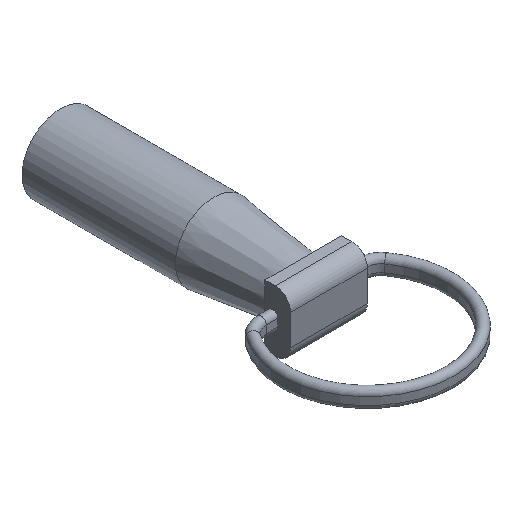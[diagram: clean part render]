
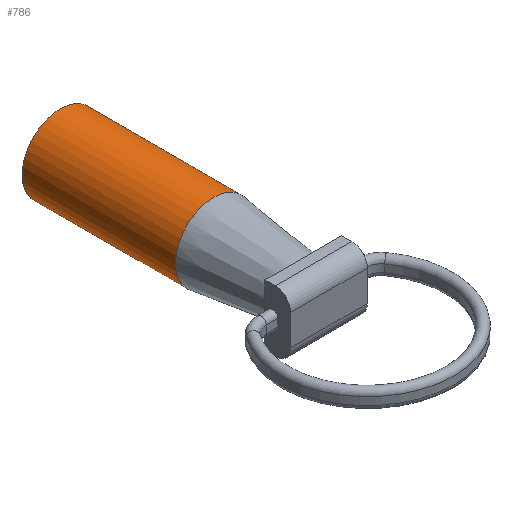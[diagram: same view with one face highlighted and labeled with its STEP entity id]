
A CAD part, isometric view. The second image highlights one B-rep face of the part: STEP entity #786.
In plain terms, the highlighted cylindrical face has radius 7.5 mm (diameter 15 mm), a full revolution.
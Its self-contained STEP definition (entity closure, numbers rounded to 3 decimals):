
#91 = EDGE_CURVE ( 'NONE', #893, #893, #320, .T. ) ;
#116 = EDGE_CURVE ( 'NONE', #342, #342, #821, .T. ) ;
#136 = CARTESIAN_POINT ( 'NONE',  ( 0., 20., 0. ) ) ;
#140 = AXIS2_PLACEMENT_3D ( 'NONE', #136, #446, #453 ) ;
#151 = FACE_OUTER_BOUND ( 'NONE', #188, .T. ) ;
#155 = ORIENTED_EDGE ( 'NONE', *, *, #116, .T. ) ;
#188 = EDGE_LOOP ( 'NONE', ( #155 ) ) ;
#196 = CARTESIAN_POINT ( 'NONE',  ( 0., 20., 7.5 ) ) ;
#291 = DIRECTION ( 'NONE',  ( 0., 0., 1. ) ) ;
#313 = DIRECTION ( 'NONE',  ( 0., 1., 0. ) ) ;
#320 = CIRCLE ( 'NONE', #577, 7.5 ) ;
#342 = VERTEX_POINT ( 'NONE', #196 ) ;
#430 = CARTESIAN_POINT ( 'NONE',  ( 0., 50., 7.5 ) ) ;
#444 = DIRECTION ( 'NONE',  ( 0., 0., 1. ) ) ;
#446 = DIRECTION ( 'NONE',  ( 0., 1., 0. ) ) ;
#453 = DIRECTION ( 'NONE',  ( 0., 0., 1. ) ) ;
#577 = AXIS2_PLACEMENT_3D ( 'NONE', #838, #993, #291 ) ;
#776 = FACE_OUTER_BOUND ( 'NONE', #850, .T. ) ;
#786 = ADVANCED_FACE ( 'NONE', ( #776, #151 ), #922, .T. ) ;
#821 = CIRCLE ( 'NONE', #140, 7.5 ) ;
#838 = CARTESIAN_POINT ( 'NONE',  ( 0., 50., 0. ) ) ;
#850 = EDGE_LOOP ( 'NONE', ( #941 ) ) ;
#893 = VERTEX_POINT ( 'NONE', #430 ) ;
#922 = CYLINDRICAL_SURFACE ( 'NONE', #956, 7.5 ) ;
#941 = ORIENTED_EDGE ( 'NONE', *, *, #91, .F. ) ;
#956 = AXIS2_PLACEMENT_3D ( 'NONE', #995, #313, #444 ) ;
#993 = DIRECTION ( 'NONE',  ( 0., 1., 0. ) ) ;
#995 = CARTESIAN_POINT ( 'NONE',  ( 0., 60.968, 0. ) ) ;
